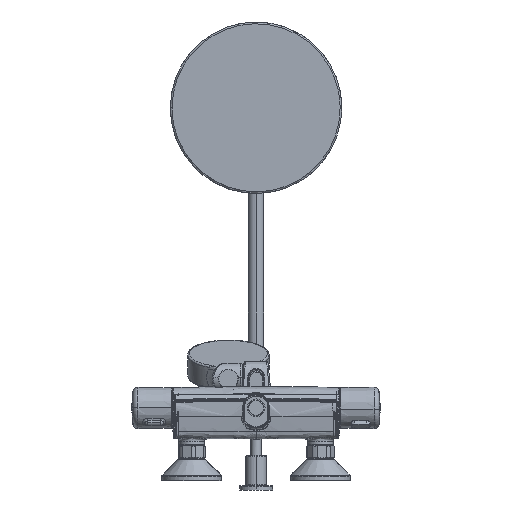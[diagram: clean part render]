
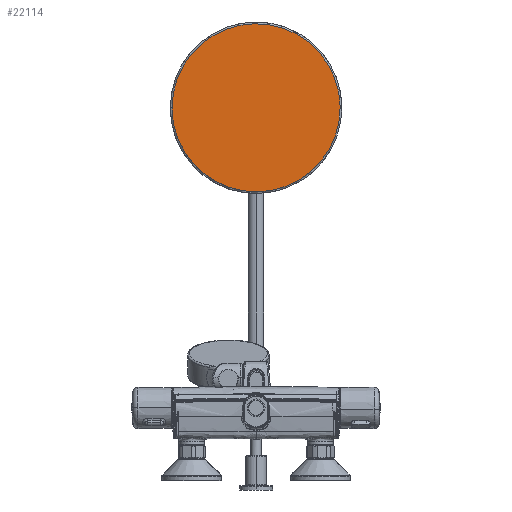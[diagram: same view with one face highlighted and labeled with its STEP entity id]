
A CAD part, front view. The second image highlights one B-rep face of the part: STEP entity #22114.
In plain terms, the highlighted planar face has unit normal (0, -1, 0).
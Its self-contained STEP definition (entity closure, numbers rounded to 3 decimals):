
#68 = CARTESIAN_POINT ( 'NONE',  ( 88.086, 984.9, 306.571 ) ) ;
#683 = CARTESIAN_POINT ( 'NONE',  ( -98., 984.9, 343.586 ) ) ;
#1158 = CARTESIAN_POINT ( 'NONE',  ( -31.577, 984.9, 442.995 ) ) ;
#1376 = CARTESIAN_POINT ( 'NONE',  ( -43.429, 984.9, 438.086 ) ) ;
#2420 = DIRECTION ( 'NONE',  ( 0., 1., 0. ) ) ;
#4919 = CARTESIAN_POINT ( 'NONE',  ( -25.41, 984.9, 255.134 ) ) ;
#5117 = CARTESIAN_POINT ( 'NONE',  ( 43.429, 984.9, 261.914 ) ) ;
#5355 = CARTESIAN_POINT ( 'NONE',  ( 85.048, 984.9, 399.113 ) ) ;
#5565 = CARTESIAN_POINT ( 'NONE',  ( 92.995, 984.9, 381.577 ) ) ;
#5751 = CARTESIAN_POINT ( 'NONE',  ( 94.866, 984.9, 324.59 ) ) ;
#5997 = CARTESIAN_POINT ( 'NONE',  ( -6.414, 984.9, 448. ) ) ;
#7872 = DIRECTION ( 'NONE',  ( 1., 0., 0. ) ) ;
#9701 = CARTESIAN_POINT ( 'NONE',  ( 31.577, 984.9, 257.005 ) ) ;
#9917 = CARTESIAN_POINT ( 'NONE',  ( -49.113, 984.9, 264.952 ) ) ;
#10161 = CARTESIAN_POINT ( 'NONE',  ( 94.866, 984.9, 375.41 ) ) ;
#10367 = CARTESIAN_POINT ( 'NONE',  ( 97.368, 984.9, 362.828 ) ) ;
#10545 = CARTESIAN_POINT ( 'NONE',  ( -92.995, 984.9, 318.423 ) ) ;
#10811 = CARTESIAN_POINT ( 'NONE',  ( 6.414, 984.9, 448. ) ) ;
#10853 = EDGE_CURVE ( 'NONE', #37134, #26882, #54202, .T. ) ;
#11021 = CARTESIAN_POINT ( 'NONE',  ( -64.761, 984.9, 423.832 ) ) ;
#11216 = CARTESIAN_POINT ( 'NONE',  ( -98., 984.9, 356.414 ) ) ;
#14730 = CARTESIAN_POINT ( 'NONE',  ( -88.086, 984.9, 306.571 ) ) ;
#15054 = CARTESIAN_POINT ( 'NONE',  ( 31.577, 984.9, 442.995 ) ) ;
#15141 = CARTESIAN_POINT ( 'NONE',  ( -43.429, 984.9, 261.914 ) ) ;
#18213 = CARTESIAN_POINT ( 'NONE',  ( 25.41, 984.9, 444.866 ) ) ;
#19323 = CARTESIAN_POINT ( 'NONE',  ( 98., 984.9, 350. ) ) ;
#19745 = CARTESIAN_POINT ( 'NONE',  ( -73.832, 984.9, 285.239 ) ) ;
#19956 = CARTESIAN_POINT ( 'NONE',  ( -12.828, 984.9, 252.632 ) ) ;
#20421 = CARTESIAN_POINT ( 'NONE',  ( -77.921, 984.9, 409.779 ) ) ;
#22114 = ADVANCED_FACE ( 'NONE', ( #36562 ), #41178, .F. ) ;
#23937 = CARTESIAN_POINT ( 'NONE',  ( 85.048, 984.9, 300.887 ) ) ;
#24154 = CARTESIAN_POINT ( 'NONE',  ( 59.779, 984.9, 272.079 ) ) ;
#24182 = CARTESIAN_POINT ( 'NONE',  ( 73.832, 984.9, 414.761 ) ) ;
#24364 = CARTESIAN_POINT ( 'NONE',  ( 49.113, 984.9, 264.952 ) ) ;
#24564 = CARTESIAN_POINT ( 'NONE',  ( 97.368, 984.9, 337.172 ) ) ;
#25249 = CARTESIAN_POINT ( 'NONE',  ( -59.779, 984.9, 427.921 ) ) ;
#26882 = VERTEX_POINT ( 'NONE', #47029 ) ;
#28755 = CARTESIAN_POINT ( 'NONE',  ( -6.414, 984.9, 252. ) ) ;
#29169 = CARTESIAN_POINT ( 'NONE',  ( -97.368, 984.9, 337.172 ) ) ;
#29380 = CARTESIAN_POINT ( 'NONE',  ( -64.761, 984.9, 276.168 ) ) ;
#29582 = CARTESIAN_POINT ( 'NONE',  ( -94.866, 984.9, 324.59 ) ) ;
#29845 = CARTESIAN_POINT ( 'NONE',  ( -88.086, 984.9, 393.429 ) ) ;
#29947 = CARTESIAN_POINT ( 'NONE',  ( 98., 984.9, 350. ) ) ;
#30056 = CARTESIAN_POINT ( 'NONE',  ( -49.113, 984.9, 435.048 ) ) ;
#31432 = CARTESIAN_POINT ( 'NONE',  ( 12.828, 984.9, 447.368 ) ) ;
#33159 = CARTESIAN_POINT ( 'NONE',  ( 43.429, 984.9, 438.086 ) ) ;
#33592 = CARTESIAN_POINT ( 'NONE',  ( 92.995, 984.9, 318.423 ) ) ;
#33823 = CARTESIAN_POINT ( 'NONE',  ( 64.761, 984.9, 423.832 ) ) ;
#34250 = CARTESIAN_POINT ( 'NONE',  ( 88.086, 984.9, 393.429 ) ) ;
#34690 = CARTESIAN_POINT ( 'NONE',  ( -25.41, 984.9, 444.866 ) ) ;
#34767 = AXIS2_PLACEMENT_3D ( 'NONE', #56147, #2420, #7872 ) ;
#34896 = CARTESIAN_POINT ( 'NONE',  ( -12.828, 984.9, 447.368 ) ) ;
#36562 = FACE_OUTER_BOUND ( 'NONE', #49631, .T. ) ;
#37134 = VERTEX_POINT ( 'NONE', #29947 ) ;
#38425 = CARTESIAN_POINT ( 'NONE',  ( 98., 984.9, 343.586 ) ) ;
#38628 = CARTESIAN_POINT ( 'NONE',  ( 25.41, 984.9, 255.134 ) ) ;
#39071 = CARTESIAN_POINT ( 'NONE',  ( 98., 984.9, 356.414 ) ) ;
#39516 = CARTESIAN_POINT ( 'NONE',  ( -85.048, 984.9, 399.113 ) ) ;
#41178 = PLANE ( 'NONE',  #34767 ) ;
#43086 = ORIENTED_EDGE ( 'NONE', *, *, #10853, .F. ) ;
#43275 = CARTESIAN_POINT ( 'NONE',  ( -98., 984.9, 350. ) ) ;
#43717 = CARTESIAN_POINT ( 'NONE',  ( 77.921, 984.9, 409.779 ) ) ;
#44099 = CARTESIAN_POINT ( 'NONE',  ( -31.577, 984.9, 257.005 ) ) ;
#44788 = CARTESIAN_POINT ( 'NONE',  ( -92.995, 984.9, 381.577 ) ) ;
#47029 = CARTESIAN_POINT ( 'NONE',  ( -98., 984.9, 350. ) ) ;
#48534 = CARTESIAN_POINT ( 'NONE',  ( 64.761, 984.9, 276.168 ) ) ;
#48749 = CARTESIAN_POINT ( 'NONE',  ( -85.048, 984.9, 300.887 ) ) ;
#48806 = B_SPLINE_CURVE_WITH_KNOTS ( 'NONE', 3,
 ( #59119, #11216, #58922, #49638, #44788, #29845, #39516, #20421, #54082, #11021, #25249, #30056, #1376, #1158, #34690, #34896, #5997, #10811, #31432, #18213, #15054, #33159, #60899, #49575, #33823, #24182, #43717, #5355, #34250, #5565, #10161, #10367, #39071, #58278 ),
 .UNSPECIFIED., .F., .F.,
 ( 4, 2, 2, 2, 2, 2, 2, 2, 2, 2, 2, 2, 2, 2, 2, 2, 4 ),
 ( 0.5, 0.531, 0.563, 0.594, 0.625, 0.656, 0.688, 0.719, 0.75, 0.781, 0.813, 0.844, 0.875, 0.906, 0.938, 0.969, 1. ),
 .UNSPECIFIED. ) ;
#49575 = CARTESIAN_POINT ( 'NONE',  ( 59.779, 984.9, 427.921 ) ) ;
#49631 = EDGE_LOOP ( 'NONE', ( #43086, #51937 ) ) ;
#49638 = CARTESIAN_POINT ( 'NONE',  ( -94.866, 984.9, 375.41 ) ) ;
#51937 = ORIENTED_EDGE ( 'NONE', *, *, #56388, .F. ) ;
#52993 = CARTESIAN_POINT ( 'NONE',  ( 77.921, 984.9, 290.221 ) ) ;
#53201 = CARTESIAN_POINT ( 'NONE',  ( 12.828, 984.9, 252.632 ) ) ;
#53620 = CARTESIAN_POINT ( 'NONE',  ( -77.921, 984.9, 290.221 ) ) ;
#54082 = CARTESIAN_POINT ( 'NONE',  ( -73.832, 984.9, 414.761 ) ) ;
#54202 = B_SPLINE_CURVE_WITH_KNOTS ( 'NONE', 3,
 ( #19323, #38425, #24564, #5751, #33592, #68, #23937, #52993, #58463, #48534, #24154, #24364, #5117, #9701, #38628, #53201, #57627, #28755, #19956, #4919, #44099, #15141, #9917, #58034, #29380, #19745, #53620, #48749, #14730, #10545, #29582, #29169, #683, #43275 ),
 .UNSPECIFIED., .F., .F.,
 ( 4, 2, 2, 2, 2, 2, 2, 2, 2, 2, 2, 2, 2, 2, 2, 2, 4 ),
 ( 0., 0.031, 0.063, 0.094, 0.125, 0.156, 0.188, 0.219, 0.25, 0.281, 0.313, 0.344, 0.375, 0.406, 0.438, 0.469, 0.5 ),
 .UNSPECIFIED. ) ;
#56147 = CARTESIAN_POINT ( 'NONE',  ( 0., 984.9, 350. ) ) ;
#56388 = EDGE_CURVE ( 'NONE', #26882, #37134, #48806, .T. ) ;
#57627 = CARTESIAN_POINT ( 'NONE',  ( 6.414, 984.9, 252. ) ) ;
#58034 = CARTESIAN_POINT ( 'NONE',  ( -59.779, 984.9, 272.079 ) ) ;
#58278 = CARTESIAN_POINT ( 'NONE',  ( 98., 984.9, 350. ) ) ;
#58463 = CARTESIAN_POINT ( 'NONE',  ( 73.832, 984.9, 285.239 ) ) ;
#58922 = CARTESIAN_POINT ( 'NONE',  ( -97.368, 984.9, 362.828 ) ) ;
#59119 = CARTESIAN_POINT ( 'NONE',  ( -98., 984.9, 350. ) ) ;
#60899 = CARTESIAN_POINT ( 'NONE',  ( 49.113, 984.9, 435.048 ) ) ;
